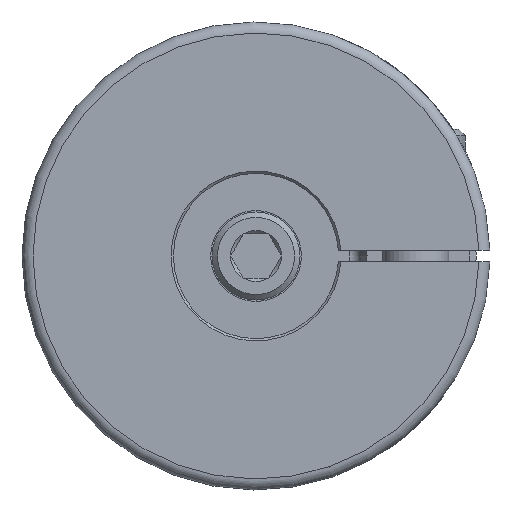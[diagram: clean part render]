
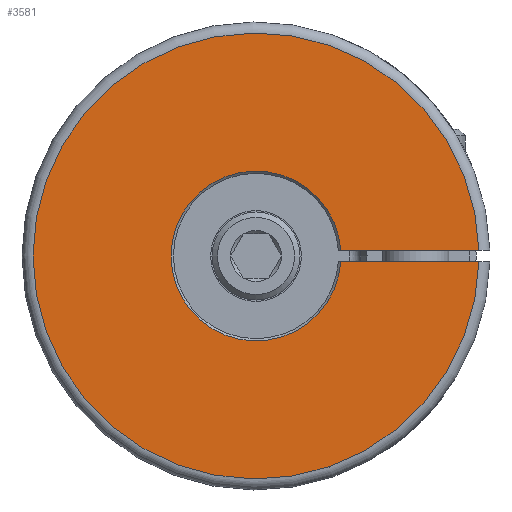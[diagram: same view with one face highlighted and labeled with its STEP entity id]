
A CAD part, left-side view. The second image highlights one B-rep face of the part: STEP entity #3581.
In plain terms, the highlighted planar face has unit normal (-1, 0, 0).
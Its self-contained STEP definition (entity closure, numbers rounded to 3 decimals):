
#153=PLANE('',#4305);
#223=CIRCLE('',#4306,40.5);
#224=CIRCLE('',#4307,15.425);
#515=LINE('',#6141,#635);
#516=LINE('',#6146,#636);
#635=VECTOR('',#4878,1000.);
#636=VECTOR('',#4881,1000.);
#769=ORIENTED_EDGE('',*,*,#1853,.T.);
#770=ORIENTED_EDGE('',*,*,#1854,.F.);
#771=ORIENTED_EDGE('',*,*,#1855,.T.);
#772=ORIENTED_EDGE('',*,*,#1856,.T.);
#1853=EDGE_CURVE('',#2395,#2396,#515,.T.);
#1854=EDGE_CURVE('',#2397,#2396,#223,.T.);
#1855=EDGE_CURVE('',#2397,#2398,#516,.T.);
#1856=EDGE_CURVE('',#2398,#2395,#224,.T.);
#2395=VERTEX_POINT('',#6142);
#2396=VERTEX_POINT('',#6143);
#2397=VERTEX_POINT('',#6145);
#2398=VERTEX_POINT('',#6147);
#2867=EDGE_LOOP('',(#769,#770,#771,#772));
#3183=FACE_BOUND('',#2867,.T.);
#3581=ADVANCED_FACE('',(#3183),#153,.F.);
#4305=AXIS2_PLACEMENT_3D('',#6140,#4876,#4877);
#4306=AXIS2_PLACEMENT_3D('',#6144,#4879,#4880);
#4307=AXIS2_PLACEMENT_3D('',#6148,#4882,#4883);
#4876=DIRECTION('',(1.,0.,0.));
#4877=DIRECTION('',(0.,0.,-1.));
#4878=DIRECTION('',(0.,-1.,0.));
#4879=DIRECTION('',(1.,0.,0.));
#4880=DIRECTION('',(0.,0.,-1.));
#4881=DIRECTION('',(0.,1.,0.));
#4882=DIRECTION('',(1.,0.,0.));
#4883=DIRECTION('',(0.,0.,-1.));
#6140=CARTESIAN_POINT('',(0.,0.,0.));
#6141=CARTESIAN_POINT('',(0.,0.,1.));
#6142=CARTESIAN_POINT('',(0.,-15.393,1.));
#6143=CARTESIAN_POINT('',(0.,-40.488,1.));
#6144=CARTESIAN_POINT('',(0.,0.,0.));
#6145=CARTESIAN_POINT('',(0.,-40.488,-1.));
#6146=CARTESIAN_POINT('',(0.,-43.5,-1.));
#6147=CARTESIAN_POINT('',(0.,-15.393,-1.));
#6148=CARTESIAN_POINT('',(0.,0.,0.));
